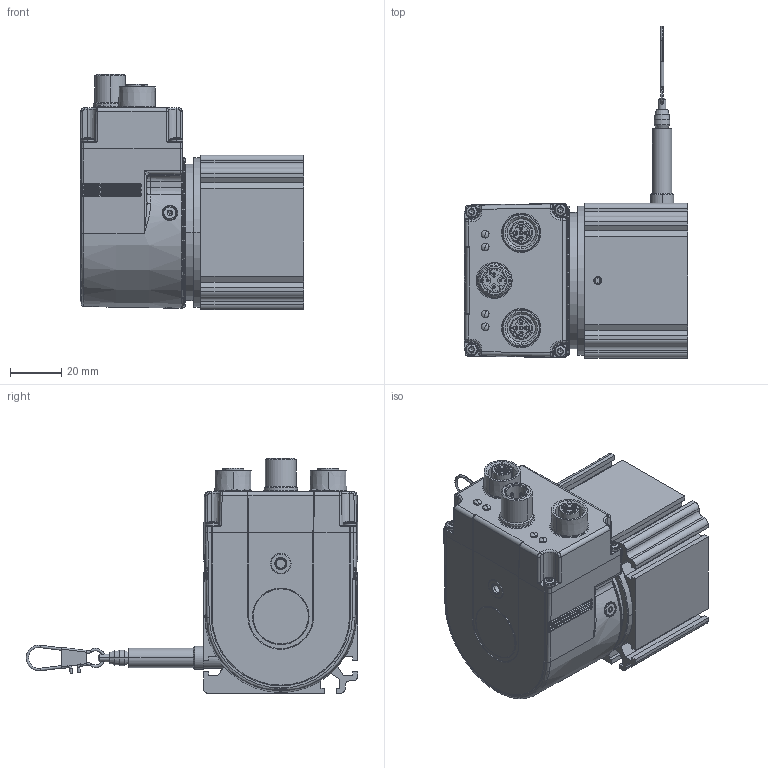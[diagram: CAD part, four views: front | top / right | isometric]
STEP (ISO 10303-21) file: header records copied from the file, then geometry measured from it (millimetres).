
FILE_DESCRIPTION((''),'2;1');
FILE_NAME('WDS-1000-P60-BH-PN_02_ASM','2024-05-29T09:15:30',('15000597'),(''),'CREO PARAMETRIC BY PTC INC, 2022164','CREO PARAMETRIC BY PTC INC, 2022164','');
FILE_SCHEMA(('AUTOMOTIVE_DESIGN { 1 0 10303 214 1 1 1 1 }'));
Products named in the file (8): BAU_KLEMM_PN_EAL580-SC0I4WPTI13_AF0; TELESO_SENZORU_P60_100_AF2; VIKO_PR55_TL1MM_AF2; PRUCHODKA_LANKA_P60_AF2; SROUB_ISO4026_STAV_HEX_M3X3_AF2; SROUB_ISO4026_STAV_HEX_M3X3_AF3; KARABINKA25_AF1; WDS-1000-P60-BH-PN_02_ASM
Assembly tree (7 placements, depth 2):
  WDS-1000-P60-BH-PN_02_ASM
    BAU_KLEMM_PN_EAL580-SC0I4WPTI13_AF0
    TELESO_SENZORU_P60_100_AF2
    VIKO_PR55_TL1MM_AF2
    PRUCHODKA_LANKA_P60_AF2
    SROUB_ISO4026_STAV_HEX_M3X3_AF2
    SROUB_ISO4026_STAV_HEX_M3X3_AF3
    KARABINKA25_AF1
Bounding box: 86.9 x 128.99 x 91.4 mm (x, y, z)
Volume: 217268.8 mm3; surface area: 54966.3 mm2
Topology: 7 solids, 11 shells, 1510 faces, 3958 edges, 2499 vertices
Faces by surface type: plane 704, cylinder 371, torus 163, cone 162, bspline 74, sphere 36
Entity records: 71873 total; most frequent: CARTESIAN_POINT 22464, ORIENTED_EDGE 7820, DIRECTION 7671, EDGE_CURVE 3918, AXIS2_PLACEMENT_3D 2756, VERTEX_POINT 2499, VECTOR 2159, LINE 2159
